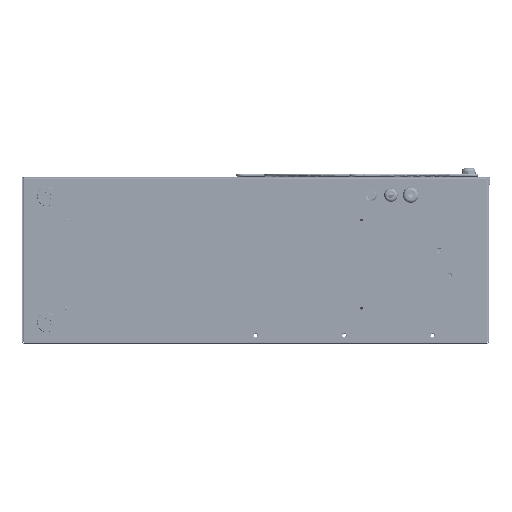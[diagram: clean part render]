
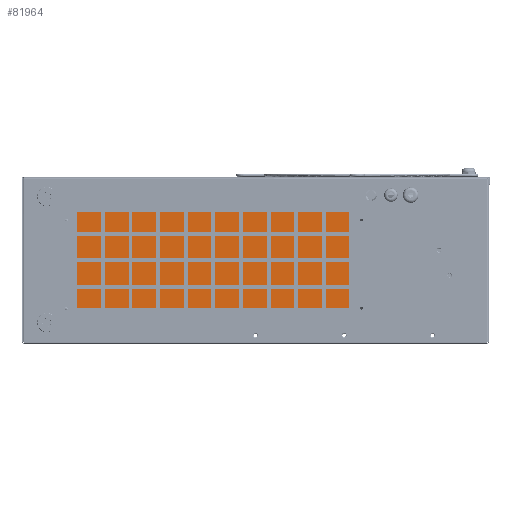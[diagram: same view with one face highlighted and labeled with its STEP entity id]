
A CAD part, left-side view. The second image highlights one B-rep face of the part: STEP entity #81964.
In plain terms, the highlighted planar face has unit normal (-1, 0, 0) as drawn and (0, 1, 0) by its records, which use the part's own axes.
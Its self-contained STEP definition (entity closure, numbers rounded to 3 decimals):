
#5699 = CARTESIAN_POINT ( 'NONE',  ( 193.5, 43.3, 73. ) ) ;
#6411 = LINE ( 'NONE', #98801, #58622 ) ;
#9464 = VERTEX_POINT ( 'NONE', #92245 ) ;
#9773 = VERTEX_POINT ( 'NONE', #5699 ) ;
#10395 = EDGE_CURVE ( 'NONE', #27805, #9464, #6411, .T. ) ;
#15126 = CARTESIAN_POINT ( 'NONE',  ( 193.5, 43.3, 75. ) ) ;
#21997 = CARTESIAN_POINT ( 'NONE',  ( 193.5, 43.3, 73. ) ) ;
#27805 = VERTEX_POINT ( 'NONE', #71319 ) ;
#30888 = LINE ( 'NONE', #21997, #113064 ) ;
#34313 = EDGE_LOOP ( 'NONE', ( #115247, #50026, #72929, #56436 ) ) ;
#39182 = DIRECTION ( 'NONE',  ( 1., 0., 0. ) ) ;
#42268 = CARTESIAN_POINT ( 'NONE',  ( 193.5, 43.3, 75. ) ) ;
#42838 = FACE_OUTER_BOUND ( 'NONE', #34313, .T. ) ;
#44232 = AXIS2_PLACEMENT_3D ( 'NONE', #42268, #50591, #96804 ) ;
#46904 = DIRECTION ( 'NONE',  ( 0., 0., 1. ) ) ;
#50026 = ORIENTED_EDGE ( 'NONE', *, *, #10395, .T. ) ;
#50591 = DIRECTION ( 'NONE',  ( 0., -1., 0. ) ) ;
#51298 = DIRECTION ( 'NONE',  ( 0., 0., 1. ) ) ;
#56436 = ORIENTED_EDGE ( 'NONE', *, *, #104896, .T. ) ;
#58622 = VECTOR ( 'NONE', #79851, 1000. ) ;
#60079 = PLANE ( 'NONE',  #44232 ) ;
#60781 = LINE ( 'NONE', #15126, #107376 ) ;
#65291 = LINE ( 'NONE', #99083, #76717 ) ;
#66049 = CARTESIAN_POINT ( 'NONE',  ( -193.5, 43.3, 73. ) ) ;
#70007 = EDGE_CURVE ( 'NONE', #27805, #9773, #60781, .T. ) ;
#71319 = CARTESIAN_POINT ( 'NONE',  ( 193.5, 43.3, -73. ) ) ;
#72929 = ORIENTED_EDGE ( 'NONE', *, *, #114748, .T. ) ;
#76717 = VECTOR ( 'NONE', #46904, 1000. ) ;
#79851 = DIRECTION ( 'NONE',  ( -1., 0., 0. ) ) ;
#80049 = VERTEX_POINT ( 'NONE', #66049 ) ;
#81964 = ADVANCED_FACE ( 'NONE', ( #42838 ), #60079, .F. ) ;
#92245 = CARTESIAN_POINT ( 'NONE',  ( -193.5, 43.3, -73. ) ) ;
#96804 = DIRECTION ( 'NONE',  ( 0., 0., -1. ) ) ;
#98801 = CARTESIAN_POINT ( 'NONE',  ( 193.5, 43.3, -73. ) ) ;
#99083 = CARTESIAN_POINT ( 'NONE',  ( -193.5, 43.3, 75. ) ) ;
#104896 = EDGE_CURVE ( 'NONE', #80049, #9773, #30888, .T. ) ;
#107376 = VECTOR ( 'NONE', #51298, 1000. ) ;
#113064 = VECTOR ( 'NONE', #39182, 1000. ) ;
#114748 = EDGE_CURVE ( 'NONE', #9464, #80049, #65291, .T. ) ;
#115247 = ORIENTED_EDGE ( 'NONE', *, *, #70007, .F. ) ;
